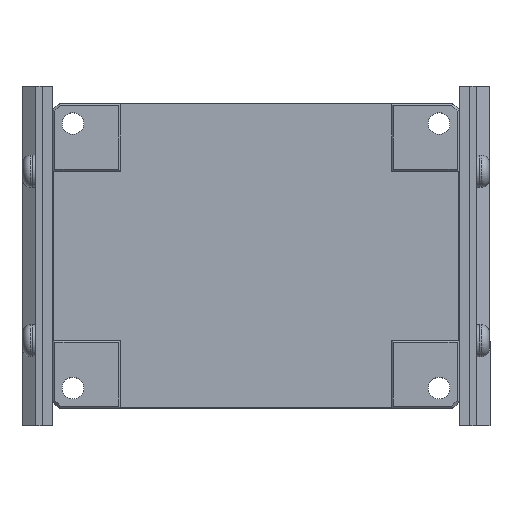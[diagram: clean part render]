
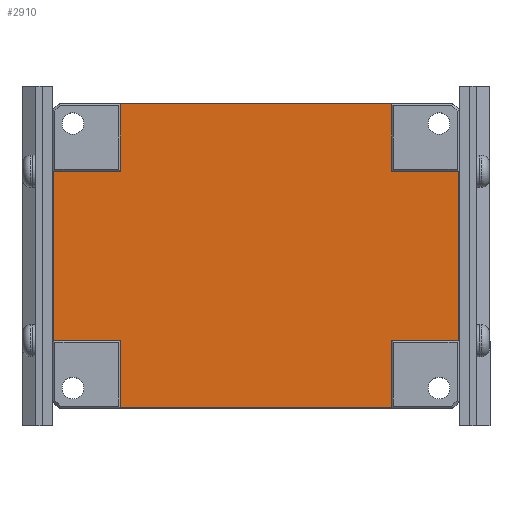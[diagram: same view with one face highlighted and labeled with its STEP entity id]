
A CAD part, top view. The second image highlights one B-rep face of the part: STEP entity #2910.
In plain terms, the highlighted planar face has unit normal (0, 0, 1).
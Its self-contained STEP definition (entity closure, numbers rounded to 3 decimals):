
#201=PLANE('',#3254);
#322=FACE_OUTER_BOUND('',#500,.T.);
#500=EDGE_LOOP('',(#2318,#2319,#2320,#2321,#2322,#2323,#2324,#2325,#2326,
#2327,#2328,#2329));
#757=LINE('',#4724,#1027);
#764=LINE('',#4738,#1034);
#769=LINE('',#4748,#1039);
#770=LINE('',#4750,#1040);
#771=LINE('',#4752,#1041);
#772=LINE('',#4754,#1042);
#773=LINE('',#4756,#1043);
#774=LINE('',#4758,#1044);
#775=LINE('',#4760,#1045);
#776=LINE('',#4761,#1046);
#777=LINE('',#4763,#1047);
#778=LINE('',#4764,#1048);
#1027=VECTOR('',#3813,10.);
#1034=VECTOR('',#3822,10.);
#1039=VECTOR('',#3831,10.);
#1040=VECTOR('',#3832,10.);
#1041=VECTOR('',#3833,10.);
#1042=VECTOR('',#3834,10.);
#1043=VECTOR('',#3835,10.);
#1044=VECTOR('',#3836,10.);
#1045=VECTOR('',#3837,10.);
#1046=VECTOR('',#3838,10.);
#1047=VECTOR('',#3839,10.);
#1048=VECTOR('',#3840,10.);
#1432=VERTEX_POINT('',#4721);
#1433=VERTEX_POINT('',#4723);
#1438=VERTEX_POINT('',#4735);
#1439=VERTEX_POINT('',#4737);
#1442=VERTEX_POINT('',#4747);
#1443=VERTEX_POINT('',#4749);
#1444=VERTEX_POINT('',#4751);
#1445=VERTEX_POINT('',#4753);
#1446=VERTEX_POINT('',#4755);
#1447=VERTEX_POINT('',#4757);
#1448=VERTEX_POINT('',#4759);
#1449=VERTEX_POINT('',#4762);
#1773=EDGE_CURVE('',#1432,#1433,#757,.T.);
#1780=EDGE_CURVE('',#1438,#1439,#764,.T.);
#1785=EDGE_CURVE('',#1438,#1442,#769,.T.);
#1786=EDGE_CURVE('',#1442,#1443,#770,.T.);
#1787=EDGE_CURVE('',#1444,#1443,#771,.T.);
#1788=EDGE_CURVE('',#1444,#1445,#772,.T.);
#1789=EDGE_CURVE('',#1445,#1446,#773,.T.);
#1790=EDGE_CURVE('',#1447,#1446,#774,.T.);
#1791=EDGE_CURVE('',#1447,#1448,#775,.T.);
#1792=EDGE_CURVE('',#1448,#1433,#776,.T.);
#1793=EDGE_CURVE('',#1432,#1449,#777,.T.);
#1794=EDGE_CURVE('',#1449,#1439,#778,.T.);
#2318=ORIENTED_EDGE('',*,*,#1780,.F.);
#2319=ORIENTED_EDGE('',*,*,#1785,.T.);
#2320=ORIENTED_EDGE('',*,*,#1786,.T.);
#2321=ORIENTED_EDGE('',*,*,#1787,.F.);
#2322=ORIENTED_EDGE('',*,*,#1788,.T.);
#2323=ORIENTED_EDGE('',*,*,#1789,.T.);
#2324=ORIENTED_EDGE('',*,*,#1790,.F.);
#2325=ORIENTED_EDGE('',*,*,#1791,.T.);
#2326=ORIENTED_EDGE('',*,*,#1792,.T.);
#2327=ORIENTED_EDGE('',*,*,#1773,.F.);
#2328=ORIENTED_EDGE('',*,*,#1793,.T.);
#2329=ORIENTED_EDGE('',*,*,#1794,.T.);
#2910=ADVANCED_FACE('',(#322),#201,.T.);
#3254=AXIS2_PLACEMENT_3D('',#4746,#3829,#3830);
#3813=DIRECTION('',(-1.,0.,0.));
#3822=DIRECTION('',(0.,-1.,0.));
#3829=DIRECTION('center_axis',(0.,0.,
1.));
#3830=DIRECTION('ref_axis',(1.,0.,0.));
#3831=DIRECTION('',(-1.,0.,0.));
#3832=DIRECTION('',(0.,1.,0.));
#3833=DIRECTION('',(1.,0.,0.));
#3834=DIRECTION('',(0.,-1.,0.));
#3835=DIRECTION('',(-1.,0.,0.));
#3836=DIRECTION('',(0.,1.,0.));
#3837=DIRECTION('',(1.,0.,0.));
#3838=DIRECTION('',(0.,-1.,0.));
#3839=DIRECTION('',(0.,1.,0.));
#3840=DIRECTION('',(1.,0.,0.));
#4721=CARTESIAN_POINT('',(40.,-44.8,32.5));
#4723=CARTESIAN_POINT('',(-40.,-44.8,32.5));
#4724=CARTESIAN_POINT('',(15.,-44.8,32.5));
#4735=CARTESIAN_POINT('',(59.8,25.,32.5));
#4737=CARTESIAN_POINT('',(59.8,-25.,32.5));
#4738=CARTESIAN_POINT('',(59.8,11.25,32.5));
#4746=CARTESIAN_POINT('Origin',(0.,0.,
32.5));
#4747=CARTESIAN_POINT('',(40.,25.,32.5));
#4748=CARTESIAN_POINT('',(60.,25.,32.5));
#4749=CARTESIAN_POINT('',(40.,44.8,32.5));
#4750=CARTESIAN_POINT('',(40.,25.,32.5));
#4751=CARTESIAN_POINT('',(-40.,44.8,32.5));
#4752=CARTESIAN_POINT('',(-15.,44.8,32.5));
#4753=CARTESIAN_POINT('',(-40.,25.,32.5));
#4754=CARTESIAN_POINT('',(-40.,45.,32.5));
#4755=CARTESIAN_POINT('',(-59.8,25.,32.5));
#4756=CARTESIAN_POINT('',(-40.,25.,32.5));
#4757=CARTESIAN_POINT('',(-59.8,-25.,32.5));
#4758=CARTESIAN_POINT('',(-59.8,-11.25,32.5));
#4759=CARTESIAN_POINT('',(-40.,-25.,32.5));
#4760=CARTESIAN_POINT('',(-60.,-25.,32.5));
#4761=CARTESIAN_POINT('',(-40.,-25.,32.5));
#4762=CARTESIAN_POINT('',(40.,-25.,32.5));
#4763=CARTESIAN_POINT('',(40.,-45.,32.5));
#4764=CARTESIAN_POINT('',(40.,-25.,32.5));
